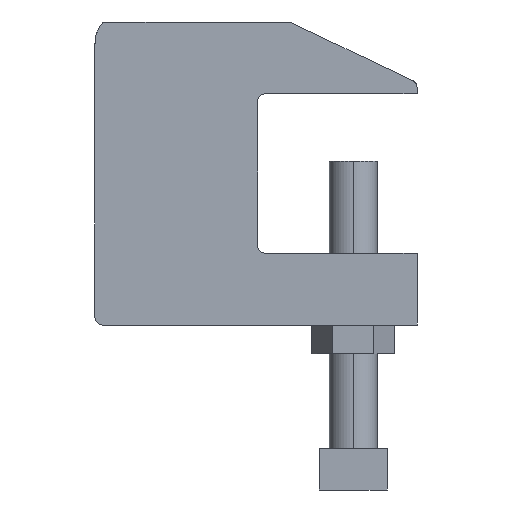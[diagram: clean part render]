
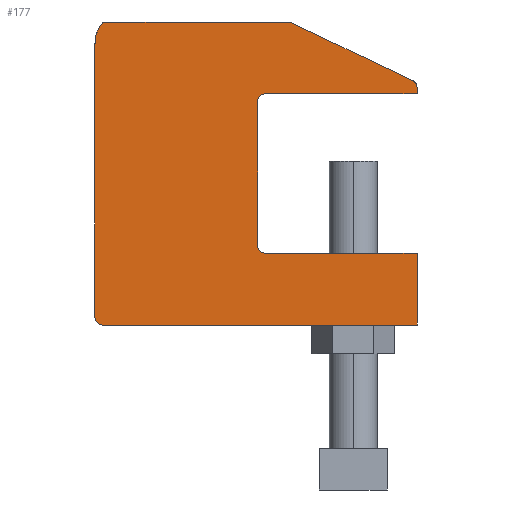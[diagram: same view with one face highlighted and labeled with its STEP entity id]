
A CAD part, front view. The second image highlights one B-rep face of the part: STEP entity #177.
In plain terms, the highlighted planar face has unit normal (0, -1, 0).
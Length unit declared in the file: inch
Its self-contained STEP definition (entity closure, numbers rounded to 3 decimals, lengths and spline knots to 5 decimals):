
#177=ADVANCED_FACE('',(#345),#346,.T.);
#345=FACE_OUTER_BOUND('',#641,.T.);
#346=PLANE('',#642);
#641=EDGE_LOOP('',(#988,#989,#990,#991,#992,#993,#994,#995,#996,#997,#998,#999,#1000,#1001,#1002));
#642=AXIS2_PLACEMENT_3D('',#1003,#1004,#1005);
#988=ORIENTED_EDGE('',*,*,#1225,.F.);
#989=ORIENTED_EDGE('',*,*,#1226,.F.);
#990=ORIENTED_EDGE('',*,*,#1195,.F.);
#991=ORIENTED_EDGE('',*,*,#1127,.F.);
#992=ORIENTED_EDGE('',*,*,#1123,.F.);
#993=ORIENTED_EDGE('',*,*,#1157,.F.);
#994=ORIENTED_EDGE('',*,*,#1114,.F.);
#995=ORIENTED_EDGE('',*,*,#1159,.F.);
#996=ORIENTED_EDGE('',*,*,#1162,.F.);
#997=ORIENTED_EDGE('',*,*,#1223,.F.);
#998=ORIENTED_EDGE('',*,*,#1165,.F.);
#999=ORIENTED_EDGE('',*,*,#1176,.F.);
#1000=ORIENTED_EDGE('',*,*,#1227,.F.);
#1001=ORIENTED_EDGE('',*,*,#1228,.F.);
#1002=ORIENTED_EDGE('',*,*,#1138,.F.);
#1003=CARTESIAN_POINT('',(1.16573,0.0,1.13506));
#1004=DIRECTION('',(0.0,-1.0,0.0));
#1005=DIRECTION('',(1.0,0.0,0.0));
#1114=EDGE_CURVE('',#1322,#1323,#1324,.T.);
#1123=EDGE_CURVE('',#1337,#1338,#1339,.T.);
#1127=EDGE_CURVE('',#1338,#1343,#1344,.T.);
#1138=EDGE_CURVE('',#1357,#1358,#1359,.T.);
#1157=EDGE_CURVE('',#1323,#1337,#1386,.T.);
#1159=EDGE_CURVE('',#1388,#1322,#1389,.T.);
#1162=EDGE_CURVE('',#1392,#1388,#1393,.T.);
#1165=EDGE_CURVE('',#1396,#1397,#1398,.T.);
#1176=EDGE_CURVE('',#1414,#1396,#1415,.T.);
#1195=EDGE_CURVE('',#1343,#1440,#1441,.T.);
#1223=EDGE_CURVE('',#1397,#1392,#1476,.T.);
#1225=EDGE_CURVE('',#1478,#1357,#1479,.T.);
#1226=EDGE_CURVE('',#1440,#1478,#1480,.T.);
#1227=EDGE_CURVE('',#1481,#1414,#1482,.T.);
#1228=EDGE_CURVE('',#1358,#1481,#1483,.T.);
#1322=VERTEX_POINT('',#1638);
#1323=VERTEX_POINT('',#1639);
#1324=LINE('',#1640,#1641);
#1337=VERTEX_POINT('',#1664);
#1338=VERTEX_POINT('',#1665);
#1339=LINE('',#1666,#1667);
#1343=VERTEX_POINT('',#1673);
#1344=B_SPLINE_CURVE_WITH_KNOTS('',3,(#1674,#1675,#1676,#1677),.UNSPECIFIED.,.F.,.F.,(4,4),(-1.0,-0.0),.UNSPECIFIED.);
#1357=VERTEX_POINT('',#1702);
#1358=VERTEX_POINT('',#1703);
#1359=B_SPLINE_CURVE_WITH_KNOTS('',3,(#1704,#1705,#1706,#1707),.UNSPECIFIED.,.F.,.F.,(4,4),(-1.0,-0.0),.UNSPECIFIED.);
#1386=B_SPLINE_CURVE_WITH_KNOTS('',3,(#1755,#1756,#1757,#1758),.UNSPECIFIED.,.F.,.F.,(4,4),(-1.0,-0.0),.UNSPECIFIED.);
#1388=VERTEX_POINT('',#1760);
#1389=LINE('',#1761,#1762);
#1392=VERTEX_POINT('',#1766);
#1393=B_SPLINE_CURVE_WITH_KNOTS('',3,(#1767,#1768,#1769,#1770),.UNSPECIFIED.,.F.,.F.,(4,4),(-1.0,-0.0),.UNSPECIFIED.);
#1396=VERTEX_POINT('',#1774);
#1397=VERTEX_POINT('',#1775);
#1398=CIRCLE('',#1776,0.06251);
#1414=VERTEX_POINT('',#1808);
#1415=LINE('',#1809,#1810);
#1440=VERTEX_POINT('',#1859);
#1441=LINE('',#1860,#1861);
#1476=LINE('',#1920,#1921);
#1478=VERTEX_POINT('',#1923);
#1479=LINE('',#1924,#1925);
#1480=LINE('',#1926,#1927);
#1481=VERTEX_POINT('',#1928);
#1482=CIRCLE('',#1929,0.27587);
#1483=LINE('',#1930,#1931);
#1638=CARTESIAN_POINT('',(2.46202,0.0,1.8125));
#1639=CARTESIAN_POINT('',(1.27452,0.0,1.8125));
#1640=CARTESIAN_POINT('',(1.27452,0.0,1.8125));
#1641=VECTOR('',#1984,1.0);
#1664=CARTESIAN_POINT('',(1.21202,0.0,1.75));
#1665=CARTESIAN_POINT('',(1.21202,0.0,0.625));
#1666=CARTESIAN_POINT('',(1.21202,0.0,0.625));
#1667=VECTOR('',#1989,1.0);
#1673=CARTESIAN_POINT('',(1.27452,0.0,0.5625));
#1674=CARTESIAN_POINT('',(1.21202,0.0,0.625));
#1675=CARTESIAN_POINT('',(1.21202,0.0,0.59048));
#1676=CARTESIAN_POINT('',(1.24,0.0,0.5625));
#1677=CARTESIAN_POINT('',(1.27452,0.0,0.5625));
#1702=CARTESIAN_POINT('',(0.0,0.0,0.0));
#1703=CARTESIAN_POINT('',(-0.0625,0.0,0.0625));
#1704=CARTESIAN_POINT('',(0.0,0.0,0.0));
#1705=CARTESIAN_POINT('',(-0.03452,0.0,0.0));
#1706=CARTESIAN_POINT('',(-0.0625,0.0,0.02798));
#1707=CARTESIAN_POINT('',(-0.0625,0.0,0.0625));
#1755=CARTESIAN_POINT('',(1.27452,0.0,1.8125));
#1756=CARTESIAN_POINT('',(1.24,0.0,1.8125));
#1757=CARTESIAN_POINT('',(1.21202,0.0,1.78452));
#1758=CARTESIAN_POINT('',(1.21202,0.0,1.75));
#1760=CARTESIAN_POINT('',(2.46202,0.0,1.8603));
#1761=CARTESIAN_POINT('',(2.46202,0.0,1.8125));
#1762=VECTOR('',#2004,1.0);
#1766=CARTESIAN_POINT('',(2.41816,0.0,1.91996));
#1767=CARTESIAN_POINT('',(2.41816,0.0,1.91996));
#1768=CARTESIAN_POINT('',(2.44425,0.0,1.9118));
#1769=CARTESIAN_POINT('',(2.46202,0.0,1.88764));
#1770=CARTESIAN_POINT('',(2.46202,0.0,1.8603));
#1774=CARTESIAN_POINT('',(1.45249,0.0,2.375));
#1775=CARTESIAN_POINT('',(1.47112,0.0,2.37216));
#1776=AXIS2_PLACEMENT_3D('',#2007,#2008,#2009);
#1808=CARTESIAN_POINT('',(0.0,0.0,2.375));
#1809=CARTESIAN_POINT('',(1.45249,0.0,2.375));
#1810=VECTOR('',#2014,1.0);
#1859=CARTESIAN_POINT('',(2.46202,0.0,0.5625));
#1860=CARTESIAN_POINT('',(2.46202,0.0,0.5625));
#1861=VECTOR('',#2021,1.0);
#1920=CARTESIAN_POINT('',(2.41816,0.0,1.91996));
#1921=VECTOR('',#2034,1.0);
#1923=CARTESIAN_POINT('',(2.46202,0.0,0.0));
#1924=CARTESIAN_POINT('',(0.0,0.0,0.0));
#1925=VECTOR('',#2035,1.0);
#1926=CARTESIAN_POINT('',(2.46202,0.0,0.0));
#1927=VECTOR('',#2036,1.0);
#1928=CARTESIAN_POINT('',(-0.0625,0.0,2.1875));
#1929=AXIS2_PLACEMENT_3D('',#2037,#2038,#2039);
#1930=CARTESIAN_POINT('',(-0.0625,0.0,2.1875));
#1931=VECTOR('',#2040,1.0);
#1984=DIRECTION('',(-1.0,0.0,-0.0));
#1989=DIRECTION('',(-0.0,0.0,-1.0));
#2004=DIRECTION('',(-0.0,0.0,-1.0));
#2007=CARTESIAN_POINT('',(1.45249,0.0,2.31249));
#2008=DIRECTION('',(-0.0,1.0,0.0));
#2009=DIRECTION('',(0.298,0.0,0.955));
#2014=DIRECTION('',(1.0,0.0,0.0));
#2021=DIRECTION('',(1.0,0.0,0.0));
#2034=DIRECTION('',(0.902,0.0,-0.431));
#2035=DIRECTION('',(-1.0,0.0,-0.0));
#2036=DIRECTION('',(-0.0,0.0,-1.0));
#2037=CARTESIAN_POINT('',(0.2131,0.0,2.1998));
#2038=DIRECTION('',(0.0,1.0,0.0));
#2039=DIRECTION('',(-0.999,0.0,-0.045));
#2040=DIRECTION('',(0.0,0.0,1.0));
